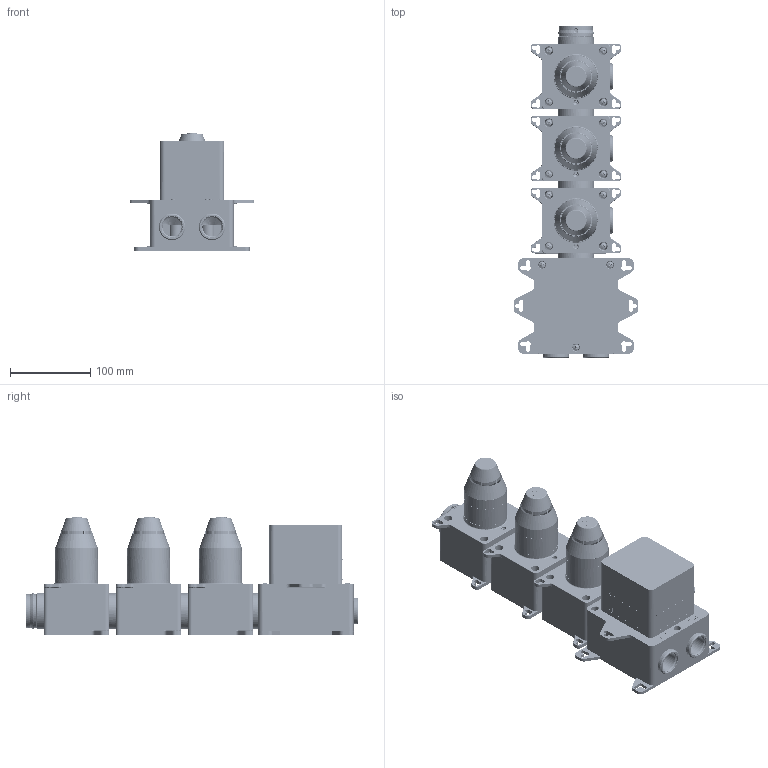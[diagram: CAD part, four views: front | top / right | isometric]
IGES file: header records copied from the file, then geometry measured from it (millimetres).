
Global section: file name: PM0030L; native system: Autodesk Inventor 2017; preprocessor: unknown; author: ROSSETTO; date: 20210802.152641; units: millimetre
Bounding box: 156 x 414.5 x 146.1 mm (x, y, z)
Volume: 1867375.4 mm3; surface area: 577500.1 mm2
Topology: 1 solids, 1 shells, 4106 faces, 11406 edges, 7350 vertices
Faces by surface type: bspline 4106
